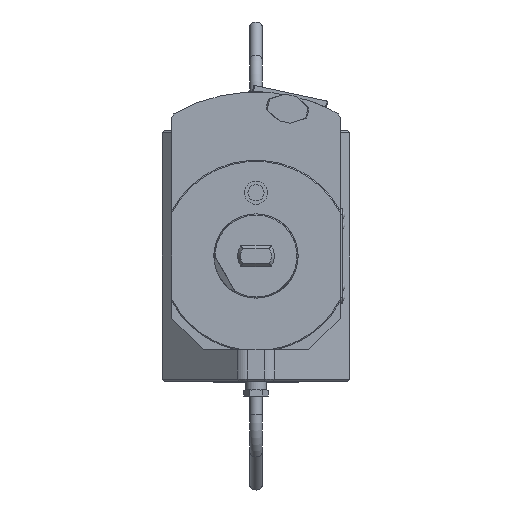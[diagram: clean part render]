
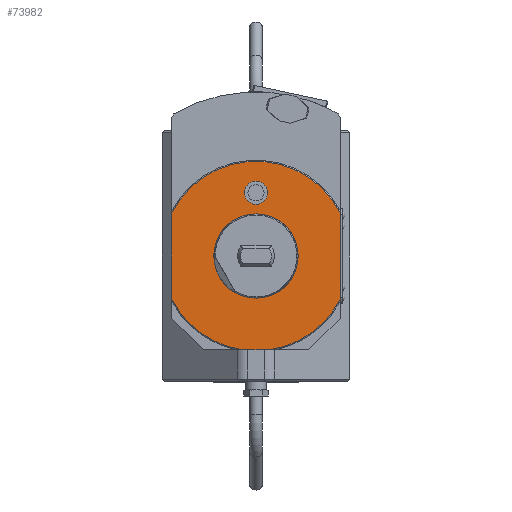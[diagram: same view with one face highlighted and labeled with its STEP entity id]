
A CAD part, left-side view. The second image highlights one B-rep face of the part: STEP entity #73982.
In plain terms, the highlighted planar face has unit normal (-1, 0, 0).
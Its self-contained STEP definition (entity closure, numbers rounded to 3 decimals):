
#30278=VECTOR('',#47428,1.);
#30279=VECTOR('',#47431,1.);
#30280=VECTOR('',#47434,1.);
#31652=LINE('',#52557,#30278);
#31653=LINE('',#52561,#30279);
#31654=LINE('',#52565,#30280);
#33199=ORIENTED_EDGE('',*,*,#41706,.F.);
#33200=ORIENTED_EDGE('',*,*,#41707,.T.);
#33201=ORIENTED_EDGE('',*,*,#41708,.F.);
#33202=ORIENTED_EDGE('',*,*,#41709,.T.);
#33203=ORIENTED_EDGE('',*,*,#41710,.F.);
#33204=ORIENTED_EDGE('',*,*,#41711,.T.);
#33205=ORIENTED_EDGE('',*,*,#41712,.F.);
#33206=ORIENTED_EDGE('',*,*,#41705,.T.);
#39003=CIRCLE('',#71436,5.505);
#39004=CIRCLE('',#71438,45.);
#39005=CIRCLE('',#71439,45.);
#39006=CIRCLE('',#71440,45.);
#39007=CIRCLE('',#71441,19.935);
#39765=VERTEX_POINT('',#52552);
#39766=VERTEX_POINT('',#52555);
#39767=VERTEX_POINT('',#52556);
#39768=VERTEX_POINT('',#52558);
#39769=VERTEX_POINT('',#52560);
#39770=VERTEX_POINT('',#52562);
#39771=VERTEX_POINT('',#52564);
#39772=VERTEX_POINT('',#52567);
#41705=EDGE_CURVE('',#39765,#39765,#39003,.T.);
#41706=EDGE_CURVE('',#39766,#39767,#31652,.T.);
#41707=EDGE_CURVE('',#39766,#39768,#39004,.T.);
#41708=EDGE_CURVE('',#39769,#39768,#31653,.T.);
#41709=EDGE_CURVE('',#39769,#39770,#39005,.T.);
#41710=EDGE_CURVE('',#39771,#39770,#31654,.T.);
#41711=EDGE_CURVE('',#39771,#39767,#39006,.T.);
#41712=EDGE_CURVE('',#39772,#39772,#39007,.T.);
#44610=EDGE_LOOP('',(#33199,#33200,#33201,#33202,#33203,#33204));
#44611=EDGE_LOOP('',(#33205));
#44612=EDGE_LOOP('',(#33206));
#46015=FACE_BOUND('',#44610,.T.);
#46016=FACE_BOUND('',#44611,.T.);
#46017=FACE_BOUND('',#44612,.T.);
#47424=DIRECTION('',(1.,0.,0.));
#47425=DIRECTION('',(0.,0.,5.505));
#47426=DIRECTION('',(-1.,0.,0.));
#47427=DIRECTION('',(0.,1.,0.));
#47428=DIRECTION('',(0.,0.,41.231));
#47429=DIRECTION('',(-1.,0.,0.));
#47430=DIRECTION('',(0.,40.,-20.616));
#47431=DIRECTION('',(0.,13.379,0.));
#47432=DIRECTION('',(-1.,0.,0.));
#47433=DIRECTION('',(0.,-6.69,-44.5));
#47434=DIRECTION('',(0.,0.,-41.231));
#47435=DIRECTION('',(-1.,0.,0.));
#47436=DIRECTION('',(0.,-40.,20.616));
#47437=DIRECTION('',(-1.,0.,0.));
#47438=DIRECTION('',(0.,19.935,0.));
#52552=CARTESIAN_POINT('',(0.,0.,35.505));
#52553=CARTESIAN_POINT('',(0.,0.,30.));
#52554=CARTESIAN_POINT('',(0.,44.904,2.942));
#52555=CARTESIAN_POINT('',(0.,40.,-20.616));
#52556=CARTESIAN_POINT('',(0.,40.,20.616));
#52557=CARTESIAN_POINT('',(0.,40.,-20.616));
#52558=CARTESIAN_POINT('',(0.,6.69,-44.5));
#52559=CARTESIAN_POINT('',(0.,0.,0.));
#52560=CARTESIAN_POINT('',(0.,-6.69,-44.5));
#52561=CARTESIAN_POINT('',(0.,-6.69,-44.5));
#52562=CARTESIAN_POINT('',(0.,-40.,-20.616));
#52563=CARTESIAN_POINT('',(0.,0.,0.));
#52564=CARTESIAN_POINT('',(0.,-40.,20.616));
#52565=CARTESIAN_POINT('',(0.,-40.,20.616));
#52566=CARTESIAN_POINT('',(0.,0.,0.));
#52567=CARTESIAN_POINT('',(0.,19.935,0.));
#52568=CARTESIAN_POINT('',(0.,0.,
0.));
#71436=AXIS2_PLACEMENT_3D('',#52553,#47424,#47425);
#71437=AXIS2_PLACEMENT_3D('',#52554,#47426,#47427);
#71438=AXIS2_PLACEMENT_3D('',#52559,#47429,#47430);
#71439=AXIS2_PLACEMENT_3D('',#52563,#47432,#47433);
#71440=AXIS2_PLACEMENT_3D('',#52566,#47435,#47436);
#71441=AXIS2_PLACEMENT_3D('',#52568,#47437,#47438);
#73311=PLANE('',#71437);
#73982=ADVANCED_FACE('',(#46015,#46016,#46017),#73311,.T.);
